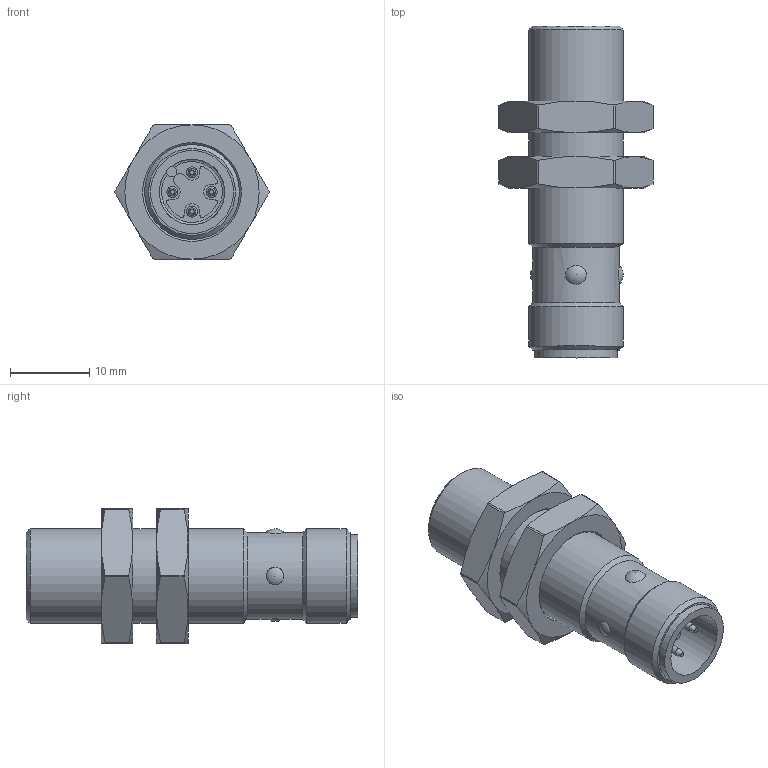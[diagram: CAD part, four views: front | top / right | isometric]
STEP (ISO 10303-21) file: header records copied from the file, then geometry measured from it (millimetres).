
FILE_DESCRIPTION((''),'2;1');
FILE_NAME('C:\TurckZip\Bi-M12K-X-H1.stp','2009-02-23T13:50:14',('IKOROL'),(''),'Autodesk Inventor 2009','Autodesk Inventor 2009','');
FILE_SCHEMA(('CONFIG_CONTROL_DESIGN'));
Length unit declared in the file: millimetre
Products named in the file (1): Part1
Bounding box: 19.5 x 42 x 17 mm (x, y, z)
Volume: 5171.8 mm3; surface area: 3082.1 mm2
Topology: 1 solids, 3 shells, 182 faces, 495 edges, 318 vertices
Faces by surface type: cylinder 74, plane 51, cone 42, sphere 8, torus 4, bspline 3
Full cylindrical faces by diameter (mm): 1 x8, 2.2 x2, 8.3 x1, 9.6 x1, 9.9 x1, 10.5 x1, 11 x1, 12 x4
Entity records: 6305 total; most frequent: CARTESIAN_POINT 1880, DIRECTION 874, ORIENTED_EDGE 864, EDGE_CURVE 432, AXIS2_PLACEMENT_3D 376, VERTEX_POINT 297, EDGE_LOOP 233, CIRCLE 192
